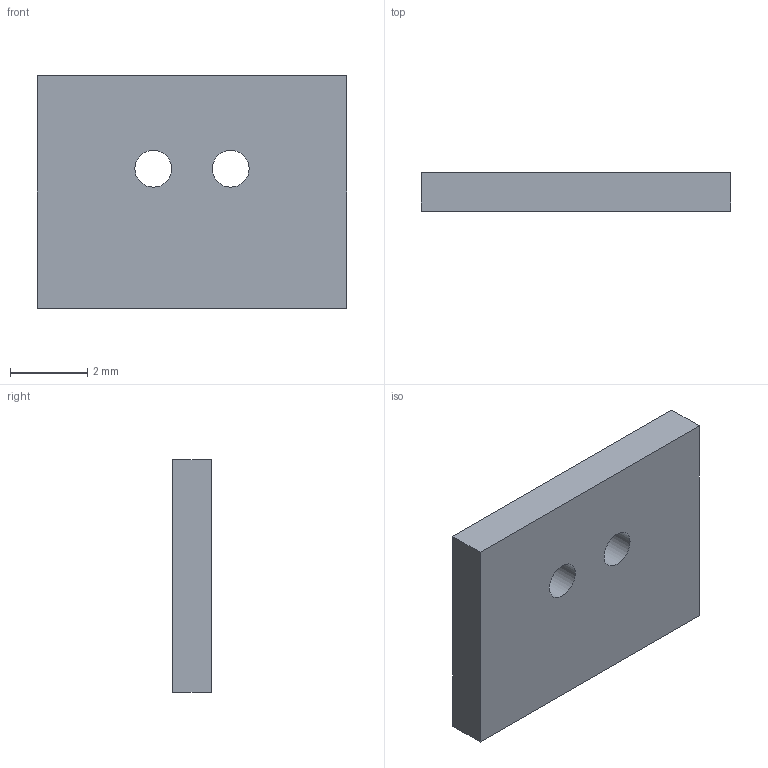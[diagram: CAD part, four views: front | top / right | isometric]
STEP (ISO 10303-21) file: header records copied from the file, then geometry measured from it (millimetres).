
FILE_DESCRIPTION(('Open CASCADE Model'),'2;1');
FILE_NAME('Open CASCADE Shape Model','2026-09-15T15:02:27',('Author'),( 'Open CASCADE'),'Open CASCADE STEP processor 7.7','Open CASCADE 7.7' ,'Unknown');
FILE_SCHEMA(('AUTOMOTIVE_DESIGN { 1 0 10303 214 1 1 1 1 }'));
Length unit declared in the file: millimetre
Products named in the file (1): R36_ADAPTER_FR4_8x6x1_CORRECTED_PIN_ROW_FINAL
Bounding box: 8 x 1 x 6 mm (x, y, z)
Volume: 46.6 mm3; surface area: 127.1 mm2
Topology: 1 solids, 1 shells, 8 faces, 18 edges, 12 vertices
Faces by surface type: plane 6, cylinder 2
Full cylindrical faces by diameter (mm): 0.95 x2
Entity records: 478 total; most frequent: DIRECTION 76, CARTESIAN_POINT 75, LINE 46, VECTOR 46, ORIENTED_EDGE 36, PCURVE 36, DEFINITIONAL_REPRESENTATION 36, EDGE_CURVE 18
